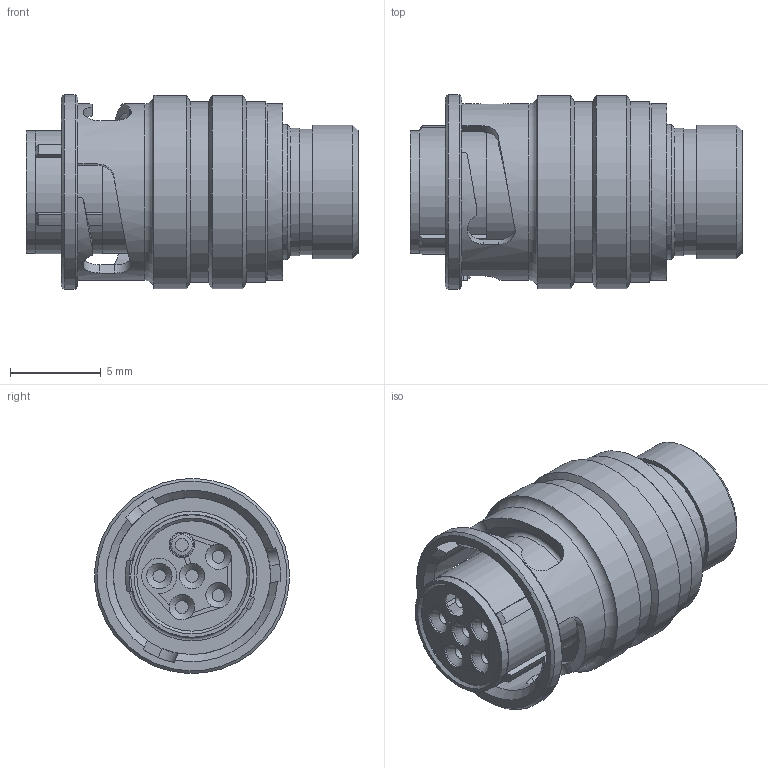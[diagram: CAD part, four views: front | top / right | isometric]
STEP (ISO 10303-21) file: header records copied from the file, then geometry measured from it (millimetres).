
FILE_DESCRIPTION(/* description */ ('STEP AP203'),/* implementation_level */ '2;1');
FILE_NAME(/* name */ 'ASX602-06SN-HE.step',/* time_stamp */ '',/* author */ (''),/* organization */ (''),/* preprocessor_version */ 'ST-DEVELOPER v20.1',/* originating_system */ 'Autodesk Translation Framework v15.8.0.0',/* authorisation */ '');
FILE_SCHEMA (('AUTOMOTIVE_DESIGN { 1 0 10303 214 3 1 1 }'));
Length unit declared in the file: millimetre
Products named in the file (1): CVM_YASX602-06SX-HE-R0
Bounding box: 18.29 x 10.74 x 10.74 mm (x, y, z)
Volume: 1068.2 mm3; surface area: 932.6 mm2
Topology: 1 solids, 1 shells, 167 faces, 416 edges, 263 vertices
Faces by surface type: plane 63, cylinder 59, cone 28, bspline 9, torus 8
Full cylindrical faces by diameter (mm): 0.35 x6, 0.7 x6, 1.3 x6, 1.4 x6, 6.075 x1, 6.45 x1, 6.75 x2, 6.9 x1, 7.05 x1, 7.35 x1, 7.44 x1, 8.65 x1, 9.743 x1, 9.75 x1, 9.95 x2, 10.65 x2, 10.75 x1
Entity records: 5620 total; most frequent: CARTESIAN_POINT 1517, DIRECTION 847, ORIENTED_EDGE 832, EDGE_CURVE 416, AXIS2_PLACEMENT_3D 332, VERTEX_POINT 263, EDGE_LOOP 185, LINE 183
